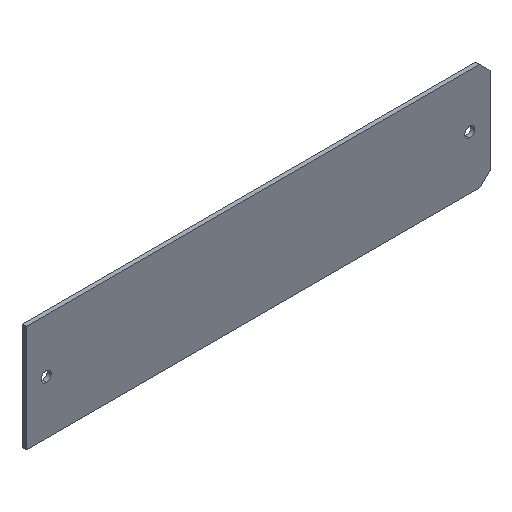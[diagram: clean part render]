
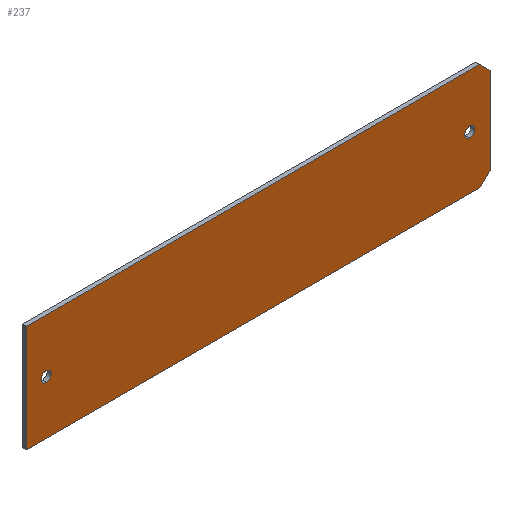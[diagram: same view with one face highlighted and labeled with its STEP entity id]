
A CAD part, isometric view. The second image highlights one B-rep face of the part: STEP entity #237.
In plain terms, the highlighted planar face has unit normal (0, -1, 0).
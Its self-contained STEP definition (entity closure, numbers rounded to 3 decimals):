
#7 = ORIENTED_EDGE ( 'NONE', *, *, #226, .T. ) ;
#18 = ORIENTED_EDGE ( 'NONE', *, *, #337, .F. ) ;
#19 = EDGE_CURVE ( 'NONE', #214, #172, #188, .T. ) ;
#26 = CARTESIAN_POINT ( 'NONE',  ( 42., 0., 0. ) ) ;
#28 = ORIENTED_EDGE ( 'NONE', *, *, #192, .F. ) ;
#30 = DIRECTION ( 'NONE',  ( 0., 0., 1. ) ) ;
#32 = DIRECTION ( 'NONE',  ( 0., 1., 0. ) ) ;
#38 = AXIS2_PLACEMENT_3D ( 'NONE', #298, #137, #307 ) ;
#47 = CARTESIAN_POINT ( 'NONE',  ( 42., 0., 1. ) ) ;
#54 = FACE_BOUND ( 'NONE', #246, .T. ) ;
#56 = ORIENTED_EDGE ( 'NONE', *, *, #19, .T. ) ;
#57 = CIRCLE ( 'NONE', #352, 1. ) ;
#58 = DIRECTION ( 'NONE',  ( 0., 1., 0. ) ) ;
#63 = VECTOR ( 'NONE', #390, 1000. ) ;
#65 = ORIENTED_EDGE ( 'NONE', *, *, #117, .T. ) ;
#73 = DIRECTION ( 'NONE',  ( 0.707, 0., 0.707 ) ) ;
#76 = LINE ( 'NONE', #374, #305 ) ;
#87 = CARTESIAN_POINT ( 'NONE',  ( 0., 0., 0. ) ) ;
#88 = EDGE_LOOP ( 'NONE', ( #99, #56 ) ) ;
#90 = VECTOR ( 'NONE', #183, 1000. ) ;
#96 = CARTESIAN_POINT ( 'NONE',  ( -46., 0., -10.6 ) ) ;
#99 = ORIENTED_EDGE ( 'NONE', *, *, #103, .T. ) ;
#103 = EDGE_CURVE ( 'NONE', #172, #214, #203, .T. ) ;
#104 = AXIS2_PLACEMENT_3D ( 'NONE', #26, #277, #30 ) ;
#117 = EDGE_CURVE ( 'NONE', #276, #129, #76, .T. ) ;
#126 = CARTESIAN_POINT ( 'NONE',  ( -46., 0., 10.6 ) ) ;
#129 = VERTEX_POINT ( 'NONE', #232 ) ;
#137 = DIRECTION ( 'NONE',  ( 0., 1., 0. ) ) ;
#140 = VERTEX_POINT ( 'NONE', #47 ) ;
#145 = EDGE_LOOP ( 'NONE', ( #28, #404, #184, #165, #18, #65 ) ) ;
#146 = CARTESIAN_POINT ( 'NONE',  ( -42., 0., -1. ) ) ;
#148 = LINE ( 'NONE', #179, #385 ) ;
#160 = LINE ( 'NONE', #186, #63 ) ;
#165 = ORIENTED_EDGE ( 'NONE', *, *, #389, .F. ) ;
#170 = VERTEX_POINT ( 'NONE', #171 ) ;
#171 = CARTESIAN_POINT ( 'NONE',  ( 42., 0., -1. ) ) ;
#172 = VERTEX_POINT ( 'NONE', #304 ) ;
#173 = EDGE_CURVE ( 'NONE', #410, #278, #346, .T. ) ;
#175 = CARTESIAN_POINT ( 'NONE',  ( 46., 0., 8.6 ) ) ;
#177 = DIRECTION ( 'NONE',  ( 0., 0., 1. ) ) ;
#179 = CARTESIAN_POINT ( 'NONE',  ( -46., 0., 10.6 ) ) ;
#183 = DIRECTION ( 'NONE',  ( 0., 0., -1. ) ) ;
#184 = ORIENTED_EDGE ( 'NONE', *, *, #258, .F. ) ;
#186 = CARTESIAN_POINT ( 'NONE',  ( -46., 0., -10.6 ) ) ;
#188 = CIRCLE ( 'NONE', #195, 1. ) ;
#192 = EDGE_CURVE ( 'NONE', #410, #129, #386, .T. ) ;
#195 = AXIS2_PLACEMENT_3D ( 'NONE', #364, #198, #330 ) ;
#198 = DIRECTION ( 'NONE',  ( 0., 1., 0. ) ) ;
#203 = CIRCLE ( 'NONE', #38, 1. ) ;
#212 = AXIS2_PLACEMENT_3D ( 'NONE', #87, #32, #177 ) ;
#214 = VERTEX_POINT ( 'NONE', #146 ) ;
#219 = CARTESIAN_POINT ( 'NONE',  ( 44., 0., 10.6 ) ) ;
#226 = EDGE_CURVE ( 'NONE', #170, #140, #286, .T. ) ;
#232 = CARTESIAN_POINT ( 'NONE',  ( 46., 0., -8.6 ) ) ;
#237 = ADVANCED_FACE ( 'NONE', ( #379, #54, #347 ), #411, .F. ) ;
#245 = DIRECTION ( 'NONE',  ( -0.707, 0., 0.707 ) ) ;
#246 = EDGE_LOOP ( 'NONE', ( #384, #7 ) ) ;
#257 = CARTESIAN_POINT ( 'NONE',  ( 46., 0., 8.6 ) ) ;
#258 = EDGE_CURVE ( 'NONE', #378, #278, #148, .T. ) ;
#275 = CARTESIAN_POINT ( 'NONE',  ( 44., 0., -10.6 ) ) ;
#276 = VERTEX_POINT ( 'NONE', #275 ) ;
#277 = DIRECTION ( 'NONE',  ( 0., 1., 0. ) ) ;
#278 = VERTEX_POINT ( 'NONE', #219 ) ;
#285 = EDGE_CURVE ( 'NONE', #140, #170, #57, .T. ) ;
#286 = CIRCLE ( 'NONE', #104, 1. ) ;
#295 = CARTESIAN_POINT ( 'NONE',  ( -46., 0., -10.6 ) ) ;
#298 = CARTESIAN_POINT ( 'NONE',  ( -42., 0., 0. ) ) ;
#304 = CARTESIAN_POINT ( 'NONE',  ( -42., 0., 1. ) ) ;
#305 = VECTOR ( 'NONE', #73, 1000. ) ;
#307 = DIRECTION ( 'NONE',  ( 0., 0., 1. ) ) ;
#311 = VERTEX_POINT ( 'NONE', #295 ) ;
#321 = DIRECTION ( 'NONE',  ( 1., 0., 0. ) ) ;
#324 = LINE ( 'NONE', #96, #329 ) ;
#325 = DIRECTION ( 'NONE',  ( -1., 0., 0. ) ) ;
#329 = VECTOR ( 'NONE', #325, 1000. ) ;
#330 = DIRECTION ( 'NONE',  ( 0., 0., 1. ) ) ;
#337 = EDGE_CURVE ( 'NONE', #276, #311, #324, .T. ) ;
#346 = LINE ( 'NONE', #175, #402 ) ;
#347 = FACE_OUTER_BOUND ( 'NONE', #145, .T. ) ;
#351 = CARTESIAN_POINT ( 'NONE',  ( 42., 0., 0. ) ) ;
#352 = AXIS2_PLACEMENT_3D ( 'NONE', #351, #58, #405 ) ;
#364 = CARTESIAN_POINT ( 'NONE',  ( -42., 0., 0. ) ) ;
#374 = CARTESIAN_POINT ( 'NONE',  ( 44., 0., -10.6 ) ) ;
#378 = VERTEX_POINT ( 'NONE', #126 ) ;
#379 = FACE_BOUND ( 'NONE', #88, .T. ) ;
#384 = ORIENTED_EDGE ( 'NONE', *, *, #285, .T. ) ;
#385 = VECTOR ( 'NONE', #321, 1000. ) ;
#386 = LINE ( 'NONE', #409, #90 ) ;
#389 = EDGE_CURVE ( 'NONE', #311, #378, #160, .T. ) ;
#390 = DIRECTION ( 'NONE',  ( 0., 0., 1. ) ) ;
#402 = VECTOR ( 'NONE', #245, 1000. ) ;
#404 = ORIENTED_EDGE ( 'NONE', *, *, #173, .T. ) ;
#405 = DIRECTION ( 'NONE',  ( 0., 0., 1. ) ) ;
#409 = CARTESIAN_POINT ( 'NONE',  ( 46., 0., -10.6 ) ) ;
#410 = VERTEX_POINT ( 'NONE', #257 ) ;
#411 = PLANE ( 'NONE',  #212 ) ;
